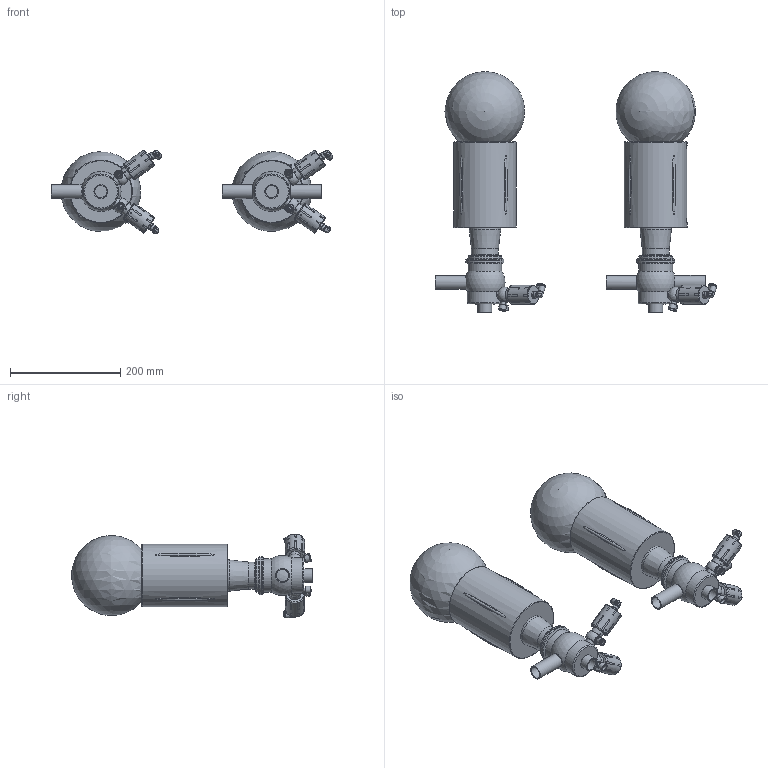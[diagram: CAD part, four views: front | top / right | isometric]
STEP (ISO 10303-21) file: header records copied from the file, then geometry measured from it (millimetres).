
FILE_DESCRIPTION(/* description */ (''),/* implementation_level */ '2;1');
FILE_NAME(/* name */ 'C:\Users\marz-m\Downloads\BZZAW3 3D STEP\BZAW3-DN025.4X1.65-SAL.stp',/* time_stamp */ '2018-09-26T10:28:58+02:00',/* author */ ('marz-m'),/* organization */ (''),/* preprocessor_version */ 'ST-DEVELOPER v17',/* originating_system */ 'Autodesk Inventor 2018',/* authorisation */ '');
FILE_SCHEMA (('AUTOMOTIVE_DESIGN { 1 0 10303 214 3 1 1 }'));
Length unit declared in the file: millimetre
Products named in the file (7): BZAW3-DN025.4X1.65-SAL; Assemblaggio-DN040; CIL108; SAGOMA-GIOTTO-; Valvolina 3A; COR-INF-L-BZAW3-DN0254X1.65-SALD; COR-INF-T-BZAW3-DN0254X1.65-SALD
Assembly tree (12 placements, depth 2):
  BZAW3-DN025.4X1.65-SAL
    SAGOMA-GIOTTO-  x2
    CIL108  x2
    Assemblaggio-DN040  x2
    Valvolina 3A  x4
    COR-INF-L-BZAW3-DN0254X1.65-SALD
    COR-INF-T-BZAW3-DN0254X1.65-SALD
Bounding box: 510.61 x 436.47 x 152.38 mm (x, y, z)
Volume: 4974394 mm3; surface area: 581521.8 mm2
Topology: 12 solids, 12 shells, 628 faces, 1807 edges, 1280 vertices
Faces by surface type: plane 269, cylinder 192, cone 86, bspline 44, torus 26, sphere 11
Full cylindrical faces by diameter (mm): 2 x8, 6 x16, 7 x4, 8 x4, 8.1 x4, 8.566 x4, 10 x4, 11 x4, 11.5 x4, 13.157 x4, 14 x4, 15.9 x4, 16 x4, 20 x4, 22 x4, 22.1 x5, 25.4 x5, 35 x4, 49 x2, 57 x2, 61 x4, 64 x2, 69 x4, 108.5 x2, 114 x2
Entity records: 9834 total; most frequent: CARTESIAN_POINT 3934, ORIENTED_EDGE 1184, DIRECTION 1168, EDGE_CURVE 592, AXIS2_PLACEMENT_3D 491, VERTEX_POINT 430, CIRCLE 268, EDGE_LOOP 248
